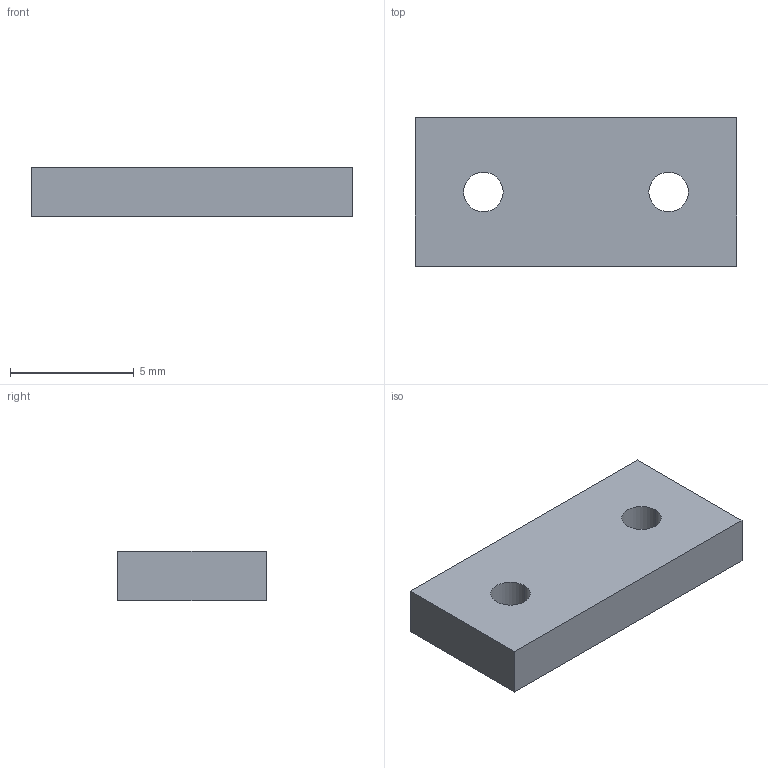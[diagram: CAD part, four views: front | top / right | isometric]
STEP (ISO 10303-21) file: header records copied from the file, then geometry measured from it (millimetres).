
FILE_DESCRIPTION(('STEP AP214'),'1');
FILE_NAME('tmp0.step','2025-05-20T19:05:09',(' '),(' '),'Spatial InterOp 3D',' ',' ');
FILE_SCHEMA(('AUTOMOTIVE_DESIGN { 1 0 10303 214 1 1 1 1 }'));
Length unit declared in the file: millimetre
Products named in the file (1): 1
Bounding box: 13 x 6 x 2 mm (x, y, z)
Volume: 148 mm3; surface area: 244.1 mm2
Topology: 1 solids, 1 shells, 10 faces, 24 edges, 16 vertices
Faces by surface type: plane 6, cylinder 4
Entity records: 329 total; most frequent: DIRECTION 54, CARTESIAN_POINT 51, ORIENTED_EDGE 48, EDGE_CURVE 24, AXIS2_PLACEMENT_3D 19, VERTEX_POINT 16, LINE 16, VECTOR 16
